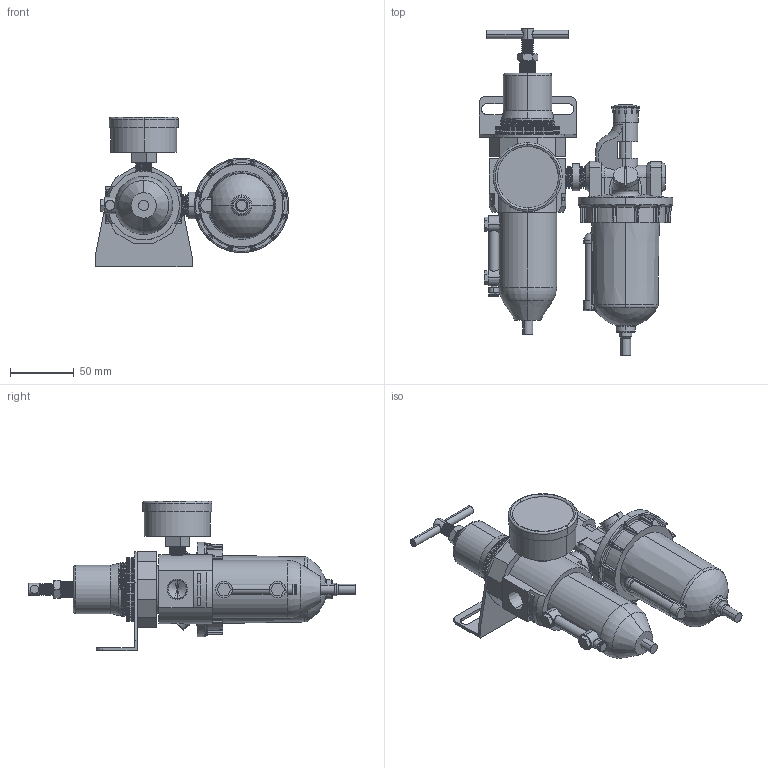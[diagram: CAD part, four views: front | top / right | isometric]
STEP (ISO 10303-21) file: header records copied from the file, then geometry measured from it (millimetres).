
FILE_DESCRIPTION (( 'STEP AP203' ), '1' );
FILE_NAME ('U668W-03#YB#.STEP', '2016-02-16T07:10:56', ( '' ), ( '' ), 'SwSTEP 2.0', 'SolidWorks 2014', '' );
FILE_SCHEMA (( 'CONFIG_CONTROL_DESIGN' ));
Length unit declared in the file: millimetre
Products named in the file (26): R011-1; R119-02-6; 50-P-AD=1-4PT.SLDPRT; L606-W-06-3; D011W-4; U668W-03#YB#; 50-P-AD=1-4PT-2; R119-02-7; KWSAR10Y57-1; B011W-03; R119-02-5; D011W-5; L606-W-06-4; 50-P-AD=1-4PT-1; L606-W-04-1; D011W-6; KWR10X51; B012W-03#YGB#; KWSAR10Y57; L606-W-06-5
Assembly tree (28 placements, depth 5):
  U668W-03#YB#
    B012W-03#YGB#
      B011W-03
      50-P-AD=1-4PT.SLDPRT
        50-P-AD=1-4PT-1
        50-P-AD=1-4PT-2
      L606-W-06-5
      (unnamed)
        D011W-5  x2
        D011W-4
        D011W-6
      (unnamed)
        KWSAR10Y57
          KWSAR10Y57-1
          KWR10X51
        R011-1
        R119-02-5
        R119-02-6
        R119-02-7
    (unnamed)
    (unnamed)
      L606-W-06-5
      L606-W-06-4
      L606-W-06-3  x2
      L606-W-04-1
      (unnamed)
      (unnamed)
Bounding box: 151.75 x 257 x 117 mm (x, y, z)
Volume: 705358.2 mm3; surface area: 124507.3 mm2
Topology: 23 solids, 23 shells, 1239 faces, 3315 edges, 2114 vertices
Faces by surface type: plane 595, cylinder 337, bspline 126, cone 103, torus 45, sphere 33
Entity records: 55948 total; most frequent: CARTESIAN_POINT 24442, ORIENTED_EDGE 6446, DIRECTION 5565, EDGE_CURVE 3223, VERTEX_POINT 2078, AXIS2_PLACEMENT_3D 1958, VECTOR 1649, LINE 1649
